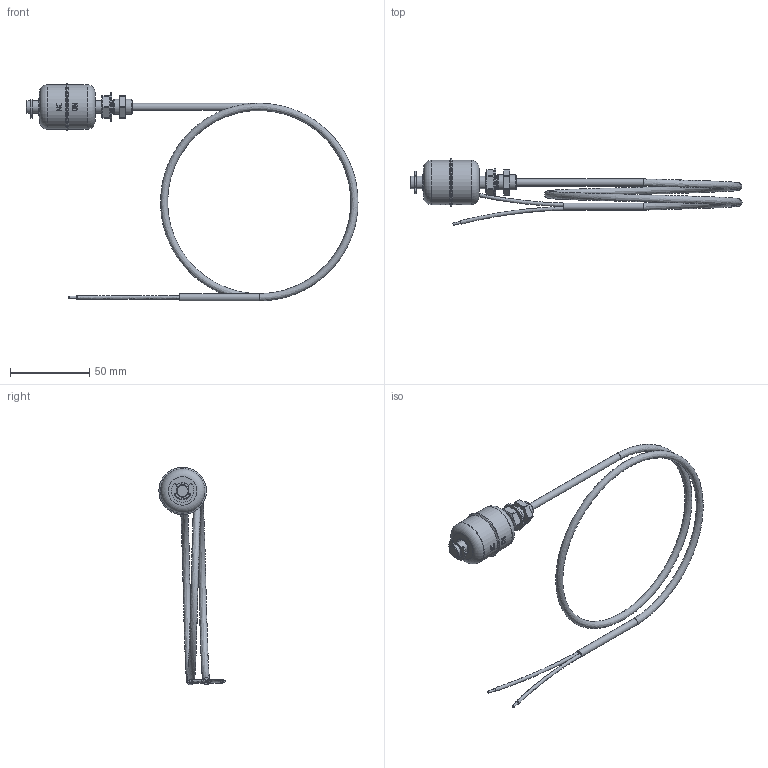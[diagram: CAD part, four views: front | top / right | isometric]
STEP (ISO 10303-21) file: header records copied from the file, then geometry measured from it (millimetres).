
FILE_DESCRIPTION(/* description */ ('CLR22 '),/* implementation_level */ '2;1');
FILE_NAME(/* name */ 'GR13_0001_00.stp',/* time_stamp */ '2024-04-05T16:54:31+02:00',/* author */ ('stefano.padovani'),/* organization */ (''),/* preprocessor_version */ 'ST-DEVELOPER v20',/* originating_system */ 'Autodesk Inventor 2024',/* authorisation */ '');
FILE_SCHEMA (('AUTOMOTIVE_DESIGN { 1 0 10303 214 3 1 1 }'));
Length unit declared in the file: millimetre
Products named in the file (8): GR13_0001_00; 0406_044_2 - 0406_057_2; 0406_045_0_GALLEGGIANTE MAGNETICO LIVELLO REED MINIATURIZZATO; 0101_014_0; 0202_014_2; 0111_048_0; 0105_018_0_DADO BASSO 1_8 G SW14X4; 0227_004_2
Assembly tree (7 placements, depth 2):
  GR13_0001_00
    0406_044_2 - 0406_057_2
    0406_045_0_GALLEGGIANTE MAGNETICO LIVELLO REED MINIATURIZZATO
    0101_014_0
    0202_014_2
    0111_048_0
    0105_018_0_DADO BASSO 1_8 G SW14X4
    0227_004_2
Bounding box: 209.24 x 41.82 x 137.25 mm (x, y, z)
Volume: 16654.2 mm3; surface area: 26327.6 mm2
Topology: 12 solids, 14 shells, 192 faces, 446 edges, 294 vertices
Faces by surface type: plane 93, cylinder 58, bspline 23, cone 8, torus 8, sphere 2
Full cylindrical faces by diameter (mm): 1.5 x3, 2 x2, 2.75 x1, 4.5 x2, 5.9 x1, 5.917 x1, 7.6 x1, 8 x2, 8.566 x1, 9.5 x1, 10.1 x1, 10.2 x1, 10.5 x4, 11.5 x1, 18 x1, 27.6 x1, 28 x2, 30 x1
Entity records: 6636 total; most frequent: CARTESIAN_POINT 1942, DIRECTION 919, ORIENTED_EDGE 886, EDGE_CURVE 443, AXIS2_PLACEMENT_3D 355, VERTEX_POINT 294, EDGE_LOOP 217, LINE 209
